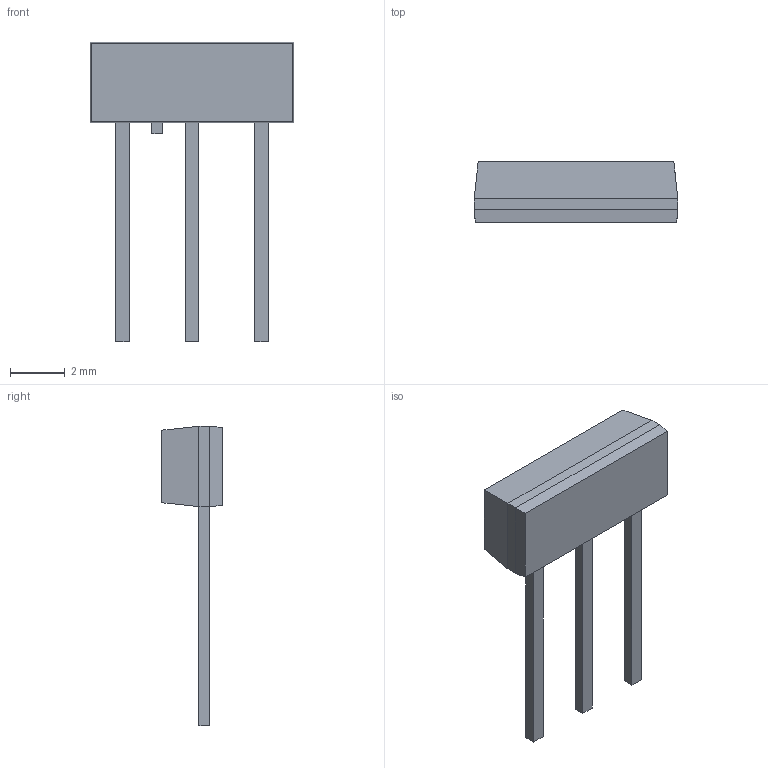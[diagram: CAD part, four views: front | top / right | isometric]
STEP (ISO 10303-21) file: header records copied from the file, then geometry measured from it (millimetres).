
FILE_DESCRIPTION((''),'2;1');
FILE_NAME('PLT232_ASM','2023-04-24T',('Administrator'),(''),'PRO/ENGINEER BY PARAMETRIC TECHNOLOGY CORPORATION, 2010370','PRO/ENGINEER BY PARAMETRIC TECHNOLOGY CORPORATION, 2010370','');
FILE_SCHEMA(('CONFIG_CONTROL_DESIGN'));
Length unit declared in the file: millimetre
Products named in the file (5): 001; 002; 004; 003; PLT232_ASM
Assembly tree (4 placements, depth 2):
  PLT232_ASM
    001
    002
    004
    003
Bounding box: 7.43 x 2.2 x 10.93 mm (x, y, z)
Volume: 49.7 mm3; surface area: 142.5 mm2
Topology: 25 solids, 25 shells, 1096 faces, 3061 edges, 2037 vertices
Faces by surface type: plane 1076, cylinder 16, cone 2, sphere 2
Entity records: 34550 total; most frequent: CARTESIAN_POINT 6201, ORIENTED_EDGE 6118, DIRECTION 5309, EDGE_CURVE 3059, VECTOR 3019, LINE 3019, VERTEX_POINT 2037, AXIS2_PLACEMENT_3D 1145
